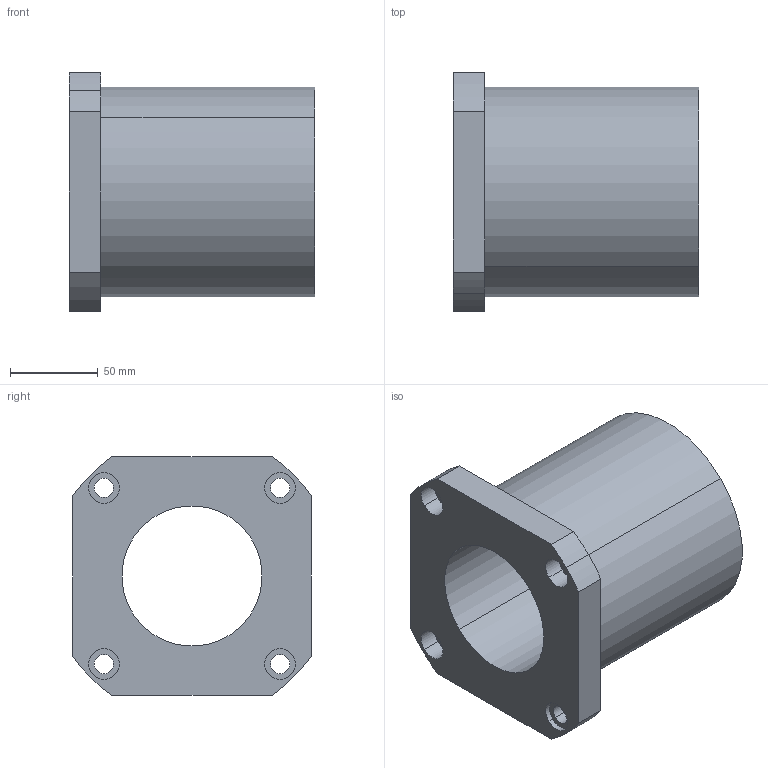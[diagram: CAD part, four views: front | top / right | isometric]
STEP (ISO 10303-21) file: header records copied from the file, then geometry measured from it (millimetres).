
FILE_DESCRIPTION (( 'STEP AP214' ), '1' );
FILE_NAME ('2.7057 Lineaarilaakeri LMK80UU.STEP', '2024-06-24T12:34:46', ( '' ), ( '' ), 'SwSTEP 2.0', 'SolidWorks 2024', '' );
FILE_SCHEMA (( 'AUTOMOTIVE_DESIGN' ));
Length unit declared in the file: millimetre
Products named in the file (1): 2.7057 Lineaarilaakeri LMK80UU
Bounding box: 140 x 136 x 136 mm (x, y, z)
Volume: 981571.9 mm3; surface area: 117727.9 mm2
Topology: 1 solids, 1 shells, 37 faces, 90 edges, 60 vertices
Faces by surface type: cylinder 26, plane 11
Entity records: 1159 total; most frequent: DIRECTION 218, CARTESIAN_POINT 188, ORIENTED_EDGE 180, EDGE_CURVE 90, AXIS2_PLACEMENT_3D 90, VERTEX_POINT 60, EDGE_LOOP 52, CIRCLE 52
